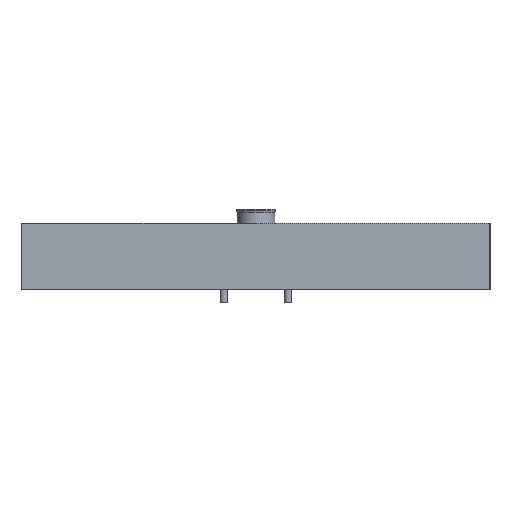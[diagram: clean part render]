
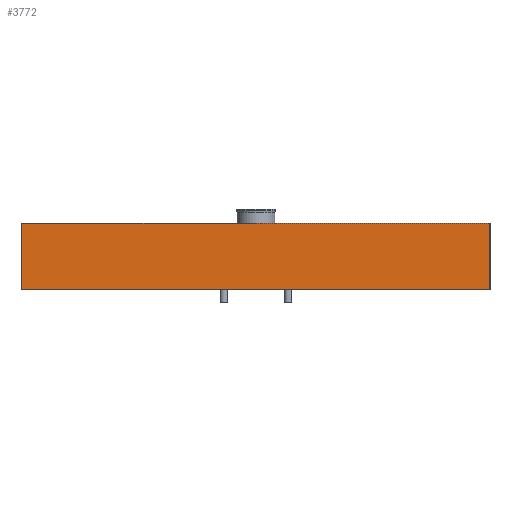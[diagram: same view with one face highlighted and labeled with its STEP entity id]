
A CAD part, left-side view. The second image highlights one B-rep face of the part: STEP entity #3772.
In plain terms, the highlighted planar face has unit normal (-1, 0, 0).
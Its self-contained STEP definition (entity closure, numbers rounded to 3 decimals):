
#3772 = ADVANCED_FACE( '', ( #8161 ), #8162, .F. );
#8161 = FACE_OUTER_BOUND( '', #15806, .T. );
#8162 = PLANE( '', #15807 );
#15806 = EDGE_LOOP( '', ( #27425, #27426, #27427, #27428 ) );
#15807 = AXIS2_PLACEMENT_3D( '', #27429, #27430, #27431 );
#27425 = ORIENTED_EDGE( '', *, *, #32340, .T. );
#27426 = ORIENTED_EDGE( '', *, *, #36282, .F. );
#27427 = ORIENTED_EDGE( '', *, *, #34432, .F. );
#27428 = ORIENTED_EDGE( '', *, *, #36283, .T. );
#27429 = CARTESIAN_POINT( '', ( -348., 248., 70. ) );
#27430 = DIRECTION( '', ( 1., 0., 0. ) );
#27431 = DIRECTION( '', ( 0., 1., 0. ) );
#32340 = EDGE_CURVE( '', #37477, #37478, #37479, .T. );
#34432 = EDGE_CURVE( '', #41008, #41009, #41010, .T. );
#36282 = EDGE_CURVE( '', #41009, #37478, #43550, .T. );
#36283 = EDGE_CURVE( '', #41008, #37477, #43551, .T. );
#37477 = VERTEX_POINT( '', #45036 );
#37478 = VERTEX_POINT( '', #45037 );
#37479 = LINE( '', #45038, #45039 );
#41008 = VERTEX_POINT( '', #51663 );
#41009 = VERTEX_POINT( '', #51664 );
#41010 = LINE( '', #51665, #51666 );
#43550 = LINE( '', #56640, #56641 );
#43551 = LINE( '', #56642, #56643 );
#45036 = CARTESIAN_POINT( '', ( -348., 248., 0. ) );
#45037 = CARTESIAN_POINT( '', ( -348., -248., 0. ) );
#45038 = CARTESIAN_POINT( '', ( -348., 248., 0. ) );
#45039 = VECTOR( '', #58755, 1000. );
#51663 = CARTESIAN_POINT( '', ( -348., 248., 70. ) );
#51664 = CARTESIAN_POINT( '', ( -348., -248., 70. ) );
#51665 = CARTESIAN_POINT( '', ( -348., 248., 70. ) );
#51666 = VECTOR( '', #61631, 1000. );
#56640 = CARTESIAN_POINT( '', ( -348., -248., 70. ) );
#56641 = VECTOR( '', #63802, 1000. );
#56642 = CARTESIAN_POINT( '', ( -348., 248., 70. ) );
#56643 = VECTOR( '', #63803, 1000. );
#58755 = DIRECTION( '', ( 0., -1., 0. ) );
#61631 = DIRECTION( '', ( 0., -1., 0. ) );
#63802 = DIRECTION( '', ( 0., 0., -1. ) );
#63803 = DIRECTION( '', ( 0., 0., -1. ) );
